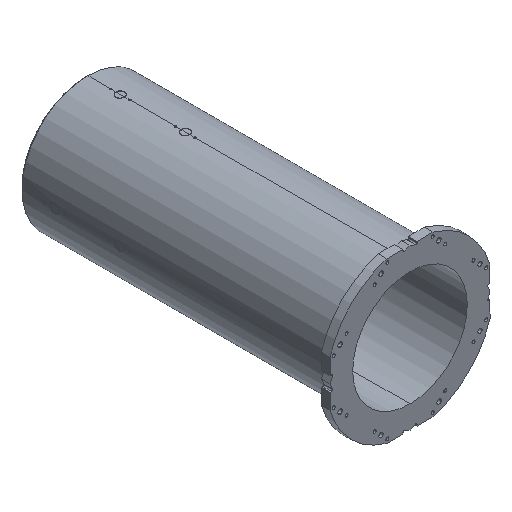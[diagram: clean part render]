
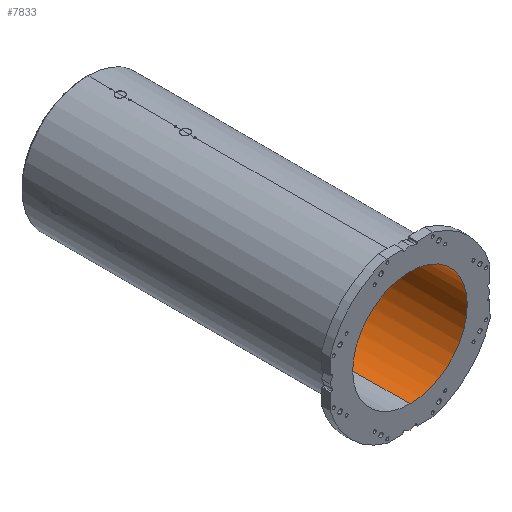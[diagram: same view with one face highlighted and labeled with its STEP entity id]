
A CAD part, isometric view. The second image highlights one B-rep face of the part: STEP entity #7833.
In plain terms, the highlighted cylindrical face has radius 265 mm (diameter 530 mm), a partial arc.
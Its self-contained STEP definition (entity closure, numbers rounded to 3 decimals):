
#201 = CARTESIAN_POINT ( 'NONE',  ( 0., 1463., 0. ) ) ;
#285 = ORIENTED_EDGE ( 'NONE', *, *, #10851, .F. ) ;
#545 = CYLINDRICAL_SURFACE ( 'NONE', #714, 265. ) ;
#714 = AXIS2_PLACEMENT_3D ( 'NONE', #15013, #2185, #11915 ) ;
#1114 = DIRECTION ( 'NONE',  ( 0., 1., 0. ) ) ;
#1297 = CARTESIAN_POINT ( 'NONE',  ( 0., 0., 265. ) ) ;
#2123 = CARTESIAN_POINT ( 'NONE',  ( 0., 0., 0. ) ) ;
#2175 = VECTOR ( 'NONE', #6425, 1000. ) ;
#2185 = DIRECTION ( 'NONE',  ( 0., 1., 0. ) ) ;
#2446 = VERTEX_POINT ( 'NONE', #12774 ) ;
#2563 = LINE ( 'NONE', #1297, #2175 ) ;
#3394 = CARTESIAN_POINT ( 'NONE',  ( 0., 0., 265. ) ) ;
#4313 = FACE_OUTER_BOUND ( 'NONE', #10166, .T. ) ;
#4614 = AXIS2_PLACEMENT_3D ( 'NONE', #2123, #7247, #12414 ) ;
#6410 = DIRECTION ( 'NONE',  ( 0., 0., 1. ) ) ;
#6425 = DIRECTION ( 'NONE',  ( 0., 1., 0. ) ) ;
#7030 = CARTESIAN_POINT ( 'NONE',  ( 0., 1463., -265. ) ) ;
#7247 = DIRECTION ( 'NONE',  ( 0., 1., 0. ) ) ;
#7833 = ADVANCED_FACE ( 'NONE', ( #4313 ), #545, .F. ) ;
#7940 = VERTEX_POINT ( 'NONE', #10298 ) ;
#8190 = EDGE_CURVE ( 'NONE', #2446, #13144, #15779, .T. ) ;
#10166 = EDGE_LOOP ( 'NONE', ( #285, #15748, #16244, #15562 ) ) ;
#10298 = CARTESIAN_POINT ( 'NONE',  ( 0., 0., -265. ) ) ;
#10407 = AXIS2_PLACEMENT_3D ( 'NONE', #201, #1114, #6410 ) ;
#10851 = EDGE_CURVE ( 'NONE', #7940, #13144, #10908, .T. ) ;
#10908 = LINE ( 'NONE', #11157, #12979 ) ;
#11157 = CARTESIAN_POINT ( 'NONE',  ( 0., 0., -265. ) ) ;
#11915 = DIRECTION ( 'NONE',  ( 0., 0., 1. ) ) ;
#12414 = DIRECTION ( 'NONE',  ( 0., 0., 1. ) ) ;
#12774 = CARTESIAN_POINT ( 'NONE',  ( 0., 1463., 265. ) ) ;
#12979 = VECTOR ( 'NONE', #16039, 1000. ) ;
#13091 = EDGE_CURVE ( 'NONE', #13257, #2446, #2563, .T. ) ;
#13144 = VERTEX_POINT ( 'NONE', #7030 ) ;
#13257 = VERTEX_POINT ( 'NONE', #3394 ) ;
#13801 = CIRCLE ( 'NONE', #4614, 265. ) ;
#14035 = EDGE_CURVE ( 'NONE', #13257, #7940, #13801, .T. ) ;
#15013 = CARTESIAN_POINT ( 'NONE',  ( 0., 0., 0. ) ) ;
#15562 = ORIENTED_EDGE ( 'NONE', *, *, #8190, .T. ) ;
#15748 = ORIENTED_EDGE ( 'NONE', *, *, #14035, .F. ) ;
#15779 = CIRCLE ( 'NONE', #10407, 265. ) ;
#16039 = DIRECTION ( 'NONE',  ( 0., 1., 0. ) ) ;
#16244 = ORIENTED_EDGE ( 'NONE', *, *, #13091, .T. ) ;
